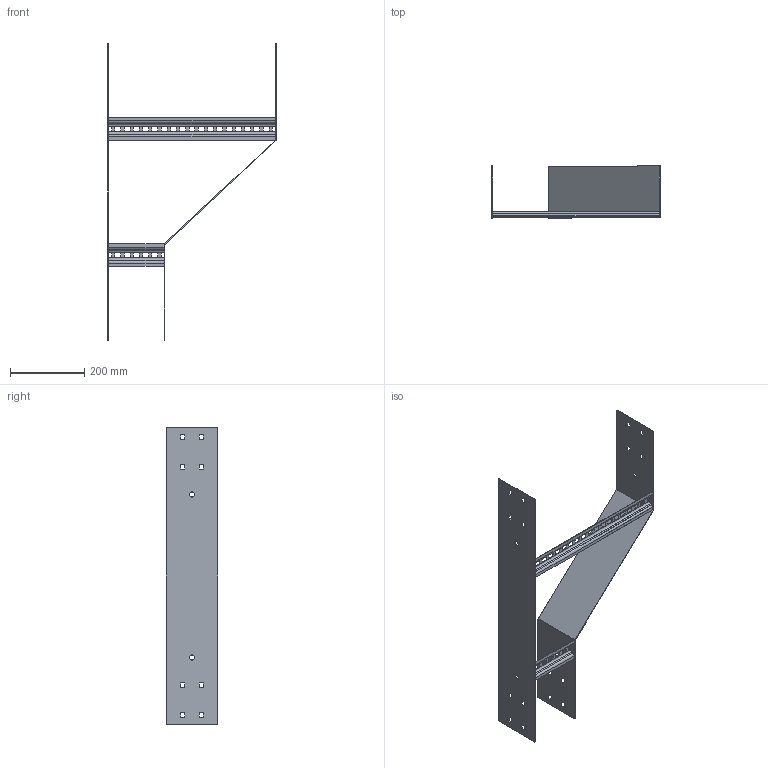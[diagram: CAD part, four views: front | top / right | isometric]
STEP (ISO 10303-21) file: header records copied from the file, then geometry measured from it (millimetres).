
FILE_DESCRIPTION (( 'STEP AP203' ), '1' );
FILE_NAME ('N20C LHR450150.STEP', '2024-08-28T21:52:15', ( '' ), ( '' ), 'SwSTEP 2.0', 'SolidWorks 2023', '' );
FILE_SCHEMA (( 'CONFIG_CONTROL_DESIGN' ));
Length unit declared in the file: millimetre
Products named in the file (5): N20C Tee Back Plate_800; Ladder Rung_Ladder Rung -  150mm; N20C LHR450150; N20C REDUCER_LHR150x450; Ladder Rung_Ladder Rung -  450mm
Assembly tree (4 placements, depth 2):
  N20C LHR450150
    N20C REDUCER_LHR150x450
    Ladder Rung_Ladder Rung -  150mm
    Ladder Rung_Ladder Rung -  450mm
    N20C Tee Back Plate_800
Bounding box: 454 x 140 x 800 mm (x, y, z)
Volume: 542638.8 mm3; surface area: 573114.3 mm2
Topology: 4 solids, 4 shells, 280 faces, 736 edges, 464 vertices
Faces by surface type: plane 252, cylinder 28
Entity records: 9087 total; most frequent: CARTESIAN_POINT 1487, ORIENTED_EDGE 1472, DIRECTION 1366, EDGE_CURVE 736, VECTOR 680, LINE 680, VERTEX_POINT 464, EDGE_LOOP 364
